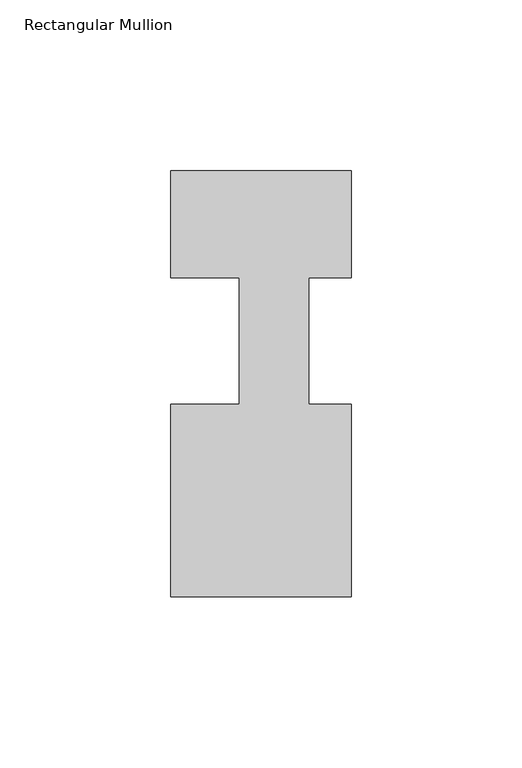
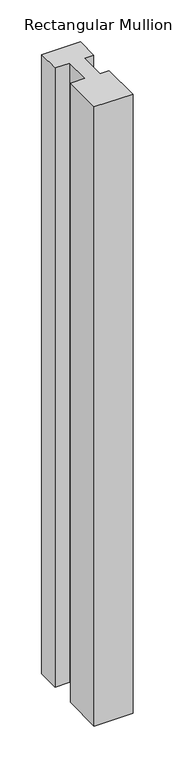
"""IFC4 building model written with IfcOpenShell, lengths in millimetres: member geometry, Rectangular Mullion : IMP310 125mm x 53mm Vertical."""

from ifc_helpers import new_model, si_unit, frame, origin, place, context, project, spatial, polyline, outline, extrude, source, transform, mapped, element, save


def rectangular_mullion_749d73fa(model_context):
    return source(origin(), model_context, "Body", "SweptSolid", [
        extrude(outline(polyline([(0.0, -75.0), (-53.0, -75.0), (-53.0, -18.5), (-32.85, -18.5), (-32.85, 18.5), (-53.0, 18.5), (-53.0, 50.0), (0.0, 50.0), (0.0, 18.5), (-12.5519066, 18.5), (-12.5519066, -18.5), (0.0, -18.5), (0.0, -75.0)])), frame((0.0, 0.0, -900.0), z_axis=(0.0, 0.0, 1.0), x_axis=(1.0, 0.0, 0.0)), (0.0, 0.0, 1.0), 900.0),
    ])


if __name__ == "__main__":
    model = new_model("IFC4")
    model_context = context("Model", 3, world=origin())
    ifc_project = project(units=[si_unit("LENGTHUNIT", "METRE", prefix="MILLI")], contexts=[model_context])
    site = spatial("IfcSite", under=ifc_project)
    building = spatial("IfcBuilding", under=site)
    placement = place(None, origin())
    rectangular_mullion_shape = rectangular_mullion_749d73fa(model_context)
    element("IfcMember", 1, ObjectType="Rectangular Mullion : IMP310 125mm x 53mm Vertical", at=placement, inside=building, context=model_context, shape_type="MappedRepresentation", body=[
        mapped(rectangular_mullion_shape, transform((0.0, 0.0, 0.0), x_axis=(1.0, 0.0, 0.0), y_axis=(0.0, 1.0, 0.0), z_axis=(0.0, 0.0, 1.0))),
    ])
    save(model, "model.ifc")
